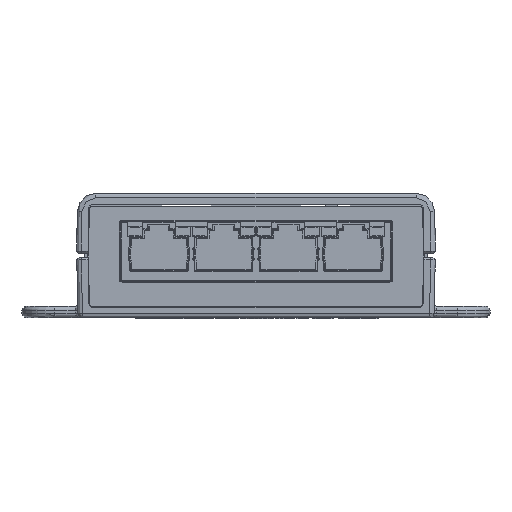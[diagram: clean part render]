
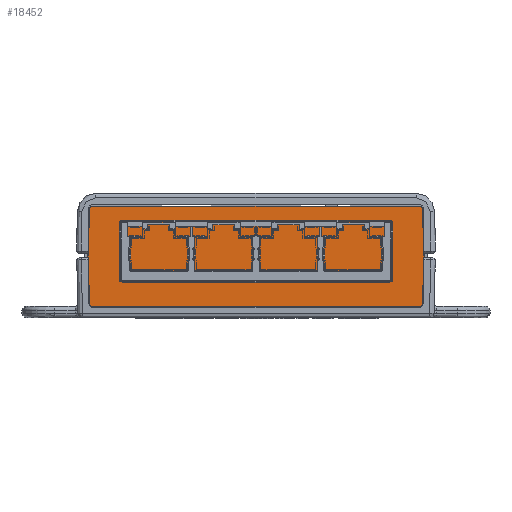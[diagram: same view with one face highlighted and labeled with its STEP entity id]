
A CAD part, front view. The second image highlights one B-rep face of the part: STEP entity #18452.
In plain terms, the highlighted planar face has unit normal (0, -1, 0) as drawn and (0, 0, 1) by its records, which use the part's own axes.
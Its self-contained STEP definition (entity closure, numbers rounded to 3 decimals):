
#18452=ADVANCED_FACE('NONE',(#37648),#37649,.T.);
#37648=FACE_OUTER_BOUND('',#62477,.T.);
#37649=PLANE('',#62478);
#62477=EDGE_LOOP('',(#119538,#119539,#119540,#119541,#119542,#119543,#119544,#119545,#119546,#119547));
#62478=AXIS2_PLACEMENT_3D('',#119548,#119549,#119550);
#119538=ORIENTED_EDGE('',*,*,#149285,.T.);
#119539=ORIENTED_EDGE('',*,*,#149424,.T.);
#119540=ORIENTED_EDGE('',*,*,#149420,.T.);
#119541=ORIENTED_EDGE('',*,*,#149403,.T.);
#119542=ORIENTED_EDGE('',*,*,#149425,.T.);
#119543=ORIENTED_EDGE('',*,*,#149406,.T.);
#119544=ORIENTED_EDGE('',*,*,#149426,.T.);
#119545=ORIENTED_EDGE('',*,*,#149411,.T.);
#119546=ORIENTED_EDGE('',*,*,#149418,.T.);
#119547=ORIENTED_EDGE('',*,*,#149427,.T.);
#119548=CARTESIAN_POINT('',(0.0,0.0,1.3));
#119549=DIRECTION('',(-0.0,0.0,1.0));
#119550=DIRECTION('',(1.0,0.0,0.0));
#149285=EDGE_CURVE('NONE',#183817,#183815,#183818,.T.);
#149403=EDGE_CURVE('NONE',#184048,#184046,#184049,.T.);
#149406=EDGE_CURVE('NONE',#184052,#184053,#184054,.T.);
#149411=EDGE_CURVE('NONE',#184061,#184062,#184063,.T.);
#149418=EDGE_CURVE('NONE',#184062,#184072,#184074,.T.);
#149420=EDGE_CURVE('NONE',#184076,#184048,#184077,.T.);
#149424=EDGE_CURVE('NONE',#183815,#184076,#184082,.T.);
#149425=EDGE_CURVE('NONE',#184046,#184052,#184083,.T.);
#149426=EDGE_CURVE('NONE',#184053,#184061,#184084,.T.);
#149427=EDGE_CURVE('NONE',#184072,#183817,#184085,.T.);
#183815=VERTEX_POINT('NONE',#234989);
#183817=VERTEX_POINT('NONE',#234992);
#183818=LINE('',#234993,#234994);
#184046=VERTEX_POINT('NONE',#235825);
#184048=VERTEX_POINT('NONE',#235828);
#184049=LINE('',#235829,#235830);
#184052=VERTEX_POINT('NONE',#235834);
#184053=VERTEX_POINT('NONE',#235835);
#184054=LINE('',#235836,#235837);
#184061=VERTEX_POINT('NONE',#235847);
#184062=VERTEX_POINT('NONE',#235848);
#184063=LINE('',#235849,#235850);
#184072=VERTEX_POINT('NONE',#235863);
#184074=LINE('',#235866,#235867);
#184076=VERTEX_POINT('NONE',#235869);
#184077=LINE('',#235870,#235871);
#184082=CIRCLE('',#235878,0.5);
#184083=CIRCLE('',#235879,0.5);
#184084=CIRCLE('',#235880,0.5);
#184085=CIRCLE('',#235881,0.5);
#234989=CARTESIAN_POINT('',(-35.395,21.777,1.3));
#234992=CARTESIAN_POINT('',(35.395,21.777,1.3));
#234993=CARTESIAN_POINT('',(-35.9,21.777,1.3));
#234994=VECTOR('',#262629,1000.0);
#235825=CARTESIAN_POINT('',(-35.895,0.505,1.3));
#235828=CARTESIAN_POINT('',(-36.258,10.9,1.3));
#235829=CARTESIAN_POINT('',(-36.258,10.901,1.3));
#235830=VECTOR('',#262714,1000.0);
#235834=CARTESIAN_POINT('',(-35.395,0.023,1.3));
#235835=CARTESIAN_POINT('',(35.395,0.023,1.3));
#235836=CARTESIAN_POINT('',(-35.9,0.023,1.3));
#235837=VECTOR('',#262716,1000.0);
#235847=CARTESIAN_POINT('',(35.895,0.505,1.3));
#235848=CARTESIAN_POINT('',(36.258,10.9,1.3));
#235849=CARTESIAN_POINT('',(36.258,10.901,1.3));
#235850=VECTOR('',#262720,1000.0);
#235863=CARTESIAN_POINT('',(35.895,21.295,1.3));
#235866=CARTESIAN_POINT('',(35.877,21.799,1.3));
#235867=VECTOR('',#262726,1000.0);
#235869=CARTESIAN_POINT('',(-35.895,21.295,1.3));
#235870=CARTESIAN_POINT('',(-35.877,21.799,1.3));
#235871=VECTOR('',#262727,1000.0);
#235878=AXIS2_PLACEMENT_3D('',#262730,#262731,#262732);
#235879=AXIS2_PLACEMENT_3D('',#262733,#262734,#262735);
#235880=AXIS2_PLACEMENT_3D('',#262736,#262737,#262738);
#235881=AXIS2_PLACEMENT_3D('',#262739,#262740,#262741);
#262629=DIRECTION('',(-1.0,0.0,-0.0));
#262714=DIRECTION('',(0.035,-0.999,0.0));
#262716=DIRECTION('',(1.0,-0.0,-0.0));
#262720=DIRECTION('',(0.035,0.999,0.));
#262726=DIRECTION('',(-0.035,0.999,-0.0));
#262727=DIRECTION('',(-0.035,-0.999,-0.0));
#262730=CARTESIAN_POINT('',(-35.395,21.277,1.3));
#262731=DIRECTION('',(0.0,-0.0,1.0));
#262732=DIRECTION('',(0.,1.,0.0));
#262733=CARTESIAN_POINT('',(-35.395,0.523,1.3));
#262734=DIRECTION('',(0.0,0.0,1.0));
#262735=DIRECTION('',(-0.999,-0.035,0.0));
#262736=CARTESIAN_POINT('',(35.395,0.523,1.3));
#262737=DIRECTION('',(0.0,0.0,1.0));
#262738=DIRECTION('',(0.,-1.,0.0));
#262739=CARTESIAN_POINT('',(35.395,21.277,1.3));
#262740=DIRECTION('',(0.,0.,1.0));
#262741=DIRECTION('',(0.999,0.035,0.));
